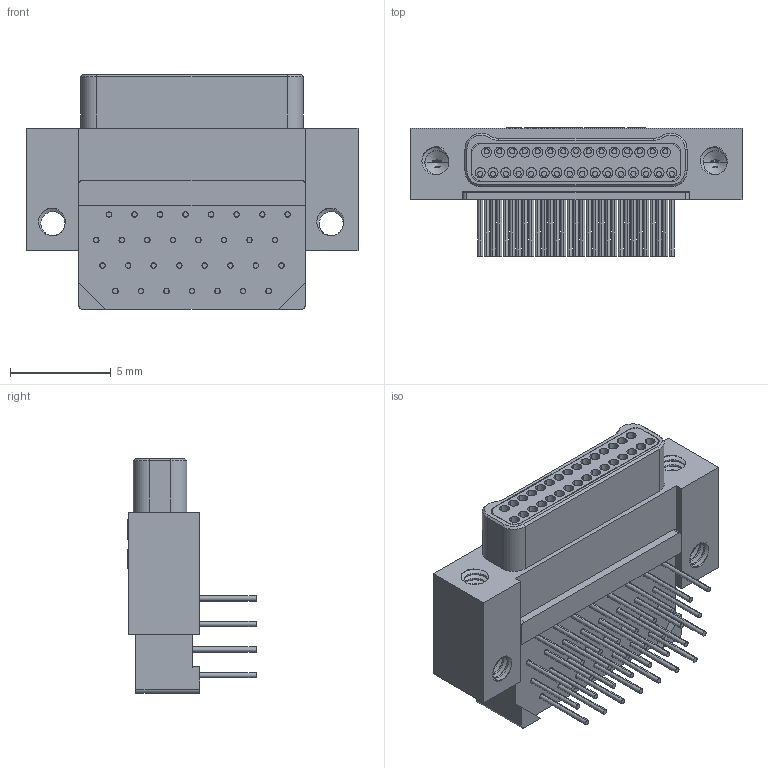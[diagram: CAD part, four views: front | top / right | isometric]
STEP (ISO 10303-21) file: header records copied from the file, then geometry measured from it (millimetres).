
FILE_DESCRIPTION (( 'STEP AP214' ), '1' );
FILE_NAME ('A28400-031 REV J.STEP', '2021-02-26T15:02:55', ( '' ), ( '' ), 'SwSTEP 2.0', 'SolidWorks 2019', '' );
FILE_SCHEMA (( 'AUTOMOTIVE_DESIGN' ));
Length unit declared in the file: inch
Products named in the file (1): A28400-031 REV J
Bounding box: 16.51 x 6.37 x 11.68 mm (x, y, z)
Volume: 441.4 mm3; surface area: 1156.4 mm2
Topology: 1 solids, 3 shells, 887 faces, 2073 edges, 1356 vertices
Faces by surface type: cylinder 408, plane 337, cone 80, bspline 62
Entity records: 47222 total; most frequent: CARTESIAN_POINT 15521, DIRECTION 4169, ORIENTED_EDGE 4146, EDGE_CURVE 2073, AXIS2_PLACEMENT_3D 1586, VERTEX_POINT 1356, EDGE_LOOP 1065, VECTOR 997
